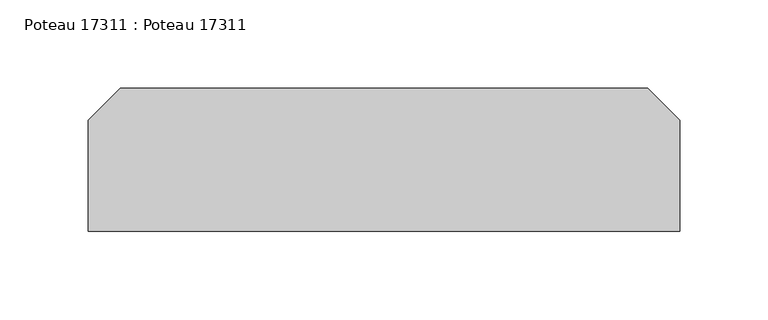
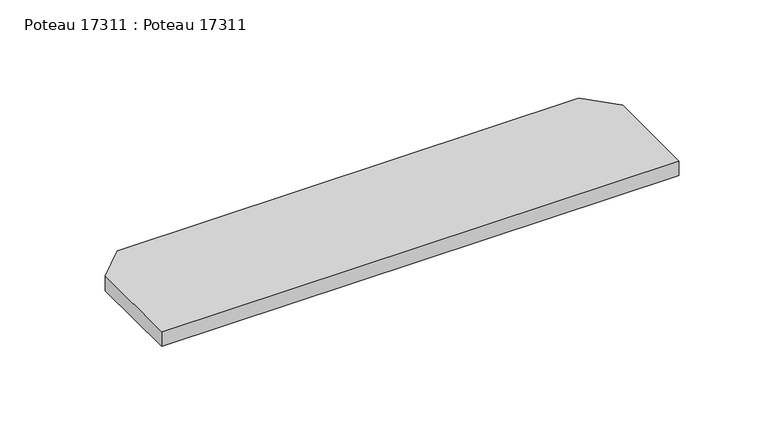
"""IFC4 building model written with IfcOpenShell, lengths in millimetres: beam geometry, Poteau 17311 : Poteau 17311."""

import ifcopenshell
import ifcopenshell.guid

model = None  # the IFC model being written
_history = None  # IfcOwnerHistory: only IFC2X3 demands one
_inside = {}  # id of a spatial element -> (the spatial element, [elements in it])
_under = {}  # id of a project, library or spatial element -> (it, [spatial elements below it])
_declared = {}  # id of a project -> (the project, [libraries it declares])
_typed = {}  # id of a type object -> (the type object, [elements of that type])
_made_of = {}  # id of a material, layer set ... -> (it, [elements and type objects made of it])


def new_model(schema):
    """Start an empty IFC model of exactly this schema.

    Asked for "IFC4X3", IfcOpenShell would pick the latest addendum, in which some entities
    have other attributes; the version numbers below select the first issue.
    IFC2X3 requires an IfcOwnerHistory on every rooted entity: one is made here for all.
    """
    global model, _history
    if schema == "IFC4X3":
        model = ifcopenshell.file(schema_version=(4, 3, 0, 0))
    else:
        model = ifcopenshell.file(schema=schema)
    _inside.clear()
    _under.clear()
    _declared.clear()
    _typed.clear()
    _made_of.clear()
    _history = None
    if model.schema == "IFC2X3":
        org = make("IfcOrganization", Name="unknown")
        user = make(
            "IfcPersonAndOrganization",
            ThePerson=make("IfcPerson", FamilyName="unknown"),
            TheOrganization=org,
        )
        app = make(
            "IfcApplication",
            ApplicationDeveloper=org,
            Version="unknown",
            ApplicationFullName="unknown",
            ApplicationIdentifier="unknown",
        )
        _history = make(
            "IfcOwnerHistory",
            OwningUser=user,
            OwningApplication=app,
            ChangeAction="ADDED",
            CreationDate=0,
        )
    return model


def make(cls, **values):
    """One entity of the class cls with the attributes given. An attribute that is None is left unset."""
    return model.create_entity(
        cls, **{name: value for name, value in values.items() if value is not None}
    )


def rooted(cls, **values):
    """An entity with a GlobalId (a new one), such as an element, a storey or a relation."""
    return make(cls, GlobalId=ifcopenshell.guid.new(), OwnerHistory=_history, **values)


def si_unit(unit_type, name, prefix=None):
    """IfcSIUnit, for example si_unit("LENGTHUNIT", "METRE", prefix="MILLI")."""
    return make("IfcSIUnit", UnitType=unit_type, Prefix=prefix, Name=name)


def assignment(units):
    """IfcUnitAssignment: the units of a project."""
    return None if units is None else make("IfcUnitAssignment", Units=units)


def point(xyz):
    """IfcCartesianPoint."""
    return None if xyz is None else make("IfcCartesianPoint", Coordinates=xyz)


def direction(xyz):
    """IfcDirection."""
    return None if xyz is None else make("IfcDirection", DirectionRatios=xyz)


def frame(location, z_axis=None, x_axis=None):
    """IfcAxis2Placement3D, a coordinate frame: its origin and axes. An axis left out is left unset."""
    return make(
        "IfcAxis2Placement3D",
        Location=point(location),
        Axis=direction(z_axis),
        RefDirection=direction(x_axis),
    )


def origin():
    """The frame at (0, 0, 0) with its axes left unset."""
    return frame((0.0, 0.0, 0.0))


def place(relative_to, where):
    """IfcLocalPlacement: puts the frame where relative to a parent placement (None: the world)."""
    return make(
        "IfcLocalPlacement", PlacementRelTo=relative_to, RelativePlacement=where
    )


def context(
    kind, dimensions, precision=None, world=None, true_north=None, identifier=None
):
    """IfcGeometricRepresentationContext, for example the 3D "Model" context."""
    return make(
        "IfcGeometricRepresentationContext",
        ContextIdentifier=identifier,
        ContextType=kind,
        CoordinateSpaceDimension=dimensions,
        Precision=precision,
        WorldCoordinateSystem=world,
        TrueNorth=true_north,
    )


def project(units=None, contexts=None):
    """IfcProject with its units and contexts."""
    return rooted(
        "IfcProject",
        Name="project",
        RepresentationContexts=contexts,
        UnitsInContext=assignment(units),
    )


def spatial(cls, under=None, at=None, **own):
    """A site, building, storey or space (cls), placed at a placement, below another one or the project."""
    s = rooted(cls, ObjectPlacement=at, **own)
    if under is not None:
        _under.setdefault(under.id(), (under, []))[1].append(s)
    return s


def polyline(points):
    """IfcPolyline through the points."""
    return make("IfcPolyline", Points=[point(p) for p in points])


def outline(outer, holes=None, kind="AREA"):
    """IfcArbitraryClosedProfileDef: a profile drawn as a closed curve; with holes, ...WithVoids."""
    if holes is None:
        return make("IfcArbitraryClosedProfileDef", ProfileType=kind, OuterCurve=outer)
    return make(
        "IfcArbitraryProfileDefWithVoids",
        ProfileType=kind,
        OuterCurve=outer,
        InnerCurves=holes,
    )


def extrude(swept, where, along, depth):
    """IfcExtrudedAreaSolid: the profile swept, set in the frame where, extruded along a direction by depth."""
    return make(
        "IfcExtrudedAreaSolid",
        SweptArea=swept,
        Position=where,
        ExtrudedDirection=direction(along),
        Depth=depth,
    )


def shape(context_of_items, identifier, shape_type, items):
    """IfcShapeRepresentation: the items that make up one representation, for example the "Body"."""
    return make(
        "IfcShapeRepresentation",
        ContextOfItems=context_of_items,
        RepresentationIdentifier=identifier,
        RepresentationType=shape_type,
        Items=items,
    )


def source(mapping_origin, context_of_items, identifier, shape_type, items):
    """IfcRepresentationMap: a shape defined once, which mapped items show again and again."""
    return make(
        "IfcRepresentationMap",
        MappingOrigin=mapping_origin,
        MappedRepresentation=shape(context_of_items, identifier, shape_type, items),
    )


def transform(
    local_origin,
    x_axis=None,
    y_axis=None,
    z_axis=None,
    scale=None,
    scale2=None,
    scale3=None,
    uniform=True,
):
    """IfcCartesianTransformationOperator3D, or its non-uniform kind. x_axis, y_axis, z_axis: its Axis1, 2, 3."""
    if uniform:
        return make(
            "IfcCartesianTransformationOperator3D",
            Axis1=direction(x_axis),
            Axis2=direction(y_axis),
            LocalOrigin=point(local_origin),
            Scale=scale,
            Axis3=direction(z_axis),
        )
    return make(
        "IfcCartesianTransformationOperator3DnonUniform",
        Axis1=direction(x_axis),
        Axis2=direction(y_axis),
        LocalOrigin=point(local_origin),
        Scale=scale,
        Axis3=direction(z_axis),
        Scale2=scale2,
        Scale3=scale3,
    )


def mapped(mapping_source, mapping_target):
    """IfcMappedItem: shows the shape of a source again, moved by a transform."""
    return make(
        "IfcMappedItem", MappingSource=mapping_source, MappingTarget=mapping_target
    )


def made_of(thing, what):
    """Note that an element or type object is made of a material, layer set ...; save() writes the relation."""
    if what is not None:
        _made_of.setdefault(what.id(), (what, []))[1].append(thing)
    return thing


def element(
    cls,
    number,
    at=None,
    inside=None,
    cuts=None,
    type_object=None,
    material=None,
    context=None,
    identifier="Body",
    shape_type=None,
    held_by="IfcProductDefinitionShape",
    body=None,
    shapes=None,
    **own,
):
    """One element of the class cls, such as IfcWall. Its Tag is "e" and its number.

    at: its placement. inside: the storey or other place that contains it. cuts: it is an
    opening in that element (IfcRelVoidsElement). A single representation is given by context,
    identifier, shape_type and body (its items); several are given by shapes. held_by: the class
    of the entity that holds the representations. save() writes the other relations.
    """
    e = rooted(cls, Tag="e%d" % number, ObjectPlacement=at, **own)
    if body is not None:
        shapes = [shape(context, identifier, shape_type, body)]
    if shapes is not None:
        e.Representation = make(held_by, Representations=shapes)
    if inside is not None:
        _inside.setdefault(inside.id(), (inside, []))[1].append(e)
    if cuts is not None:
        rooted(
            "IfcRelVoidsElement", RelatingBuildingElement=cuts, RelatedOpeningElement=e
        )
    if type_object is not None:
        _typed.setdefault(type_object.id(), (type_object, []))[1].append(e)
    return made_of(e, material)


def aggregate(whole, parts):
    """IfcRelAggregates: a whole, such as a stair, and the parts it consists of."""
    return rooted("IfcRelAggregates", RelatingObject=whole, RelatedObjects=parts)


def save(model, path):
    """Write the relations noted so far, then the file.

    IfcRelAggregates (storeys below a building ...), IfcRelContainedInSpatialStructure (elements
    in a storey), IfcRelDefinesByType, IfcRelAssociatesMaterial and IfcRelDeclares: one each for
    every whole, place, type object, material and project.
    """
    for whole, parts in _under.values():
        aggregate(whole, parts)
    for where, things in _inside.values():
        rooted(
            "IfcRelContainedInSpatialStructure",
            RelatedElements=things,
            RelatingStructure=where,
        )
    for kind, things in _typed.values():
        rooted("IfcRelDefinesByType", RelatedObjects=things, RelatingType=kind)
    for what, things in _made_of.values():
        rooted("IfcRelAssociatesMaterial", RelatedObjects=things, RelatingMaterial=what)
    for by, libraries in _declared.values():
        rooted("IfcRelDeclares", RelatingContext=by, RelatedDefinitions=libraries)
    model.write(path)


def poteau_17311_poteau_17311_7367a8bd(model_context):
    return source(origin(), model_context, "Body", "SweptSolid", [
        extrude(outline(polyline([(-166.9923577, -4322.0), (-148.9923577, -4304.0), (149.6076423, -4304.0), (167.6076423, -4322.0), (167.6076423, -4385.0), (-166.9923577, -4385.0), (-166.9923577, -4322.0)])), frame((0.0, 0.0, 7226.4270331), z_axis=(0.0, 0.0, 1.0), x_axis=(1.0, 0.0, 0.0)), (0.0, 0.0, 1.0), 10.0),
    ])


if __name__ == "__main__":
    model = new_model("IFC4")
    model_context = context("Model", 3, world=origin())
    ifc_project = project(units=[si_unit("LENGTHUNIT", "METRE", prefix="MILLI")], contexts=[model_context])
    site = spatial("IfcSite", under=ifc_project)
    building = spatial("IfcBuilding", under=site)
    placement = place(None, origin())
    poteau_17311_poteau_17311_shape = poteau_17311_poteau_17311_7367a8bd(model_context)
    element("IfcBeam", 1, ObjectType="Poteau 17311 : Poteau 17311", at=placement, inside=building, context=model_context, shape_type="MappedRepresentation", body=[
        mapped(poteau_17311_poteau_17311_shape, transform((0.0, 0.0, 0.0), x_axis=(1.0, 0.0, 0.0), y_axis=(0.0, 1.0, 0.0), z_axis=(0.0, 0.0, 1.0))),
    ])
    save(model, "model.ifc")
